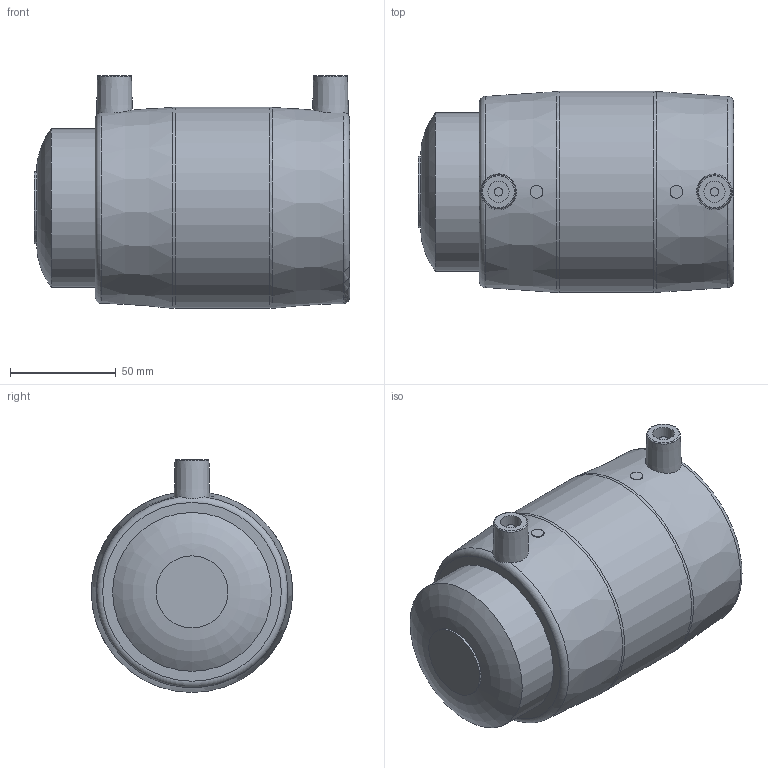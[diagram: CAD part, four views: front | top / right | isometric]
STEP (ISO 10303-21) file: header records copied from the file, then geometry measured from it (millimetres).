
FILE_DESCRIPTION(/* description */ ('Unknown'),/* implementation_level */ '2;1');
FILE_NAME(/* name */ 'CAEP075C',/* time_stamp */ '2021-02-11T10:17:57+01:00',/* author */ ('Unknown'),/* organization */ ('Unknown'),/* preprocessor_version */ 'ST-DEVELOPER v16.7',/* originating_system */ 'Solid Edge',/* authorisation */ 'Unknown');
FILE_SCHEMA (('AUTOMOTIVE_DESIGN {1 0 10303 214 3 1 1}'));
Length unit declared in the file: millimetre
Products named in the file (3): CAEP075C; MP075C; CAP075C
Assembly tree (2 placements, depth 2):
  CAEP075C
    MP075C
    CAP075C
Bounding box: 148.8 x 95 x 110 mm (x, y, z)
Volume: 440796.8 mm3; surface area: 112273.3 mm2
Topology: 2 solids, 2 shells, 51 faces, 114 edges, 75 vertices
Faces by surface type: plane 23, cylinder 15, torus 8, cone 5
Full cylindrical faces by diameter (mm): 4 x2, 6 x2, 10 x2, 34 x1, 61.4 x1, 75 x2, 95 x1
Entity records: 1293 total; most frequent: CARTESIAN_POINT 246, DIRECTION 220, ORIENTED_EDGE 148, AXIS2_PLACEMENT_3D 98, EDGE_LOOP 86, FACE_BOUND 86, EDGE_CURVE 74, VERTEX_POINT 60
